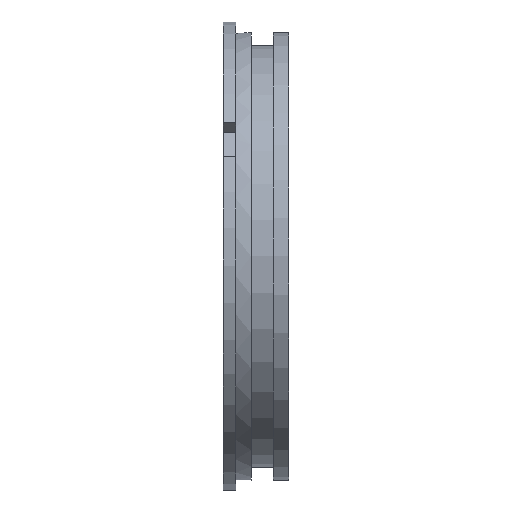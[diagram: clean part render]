
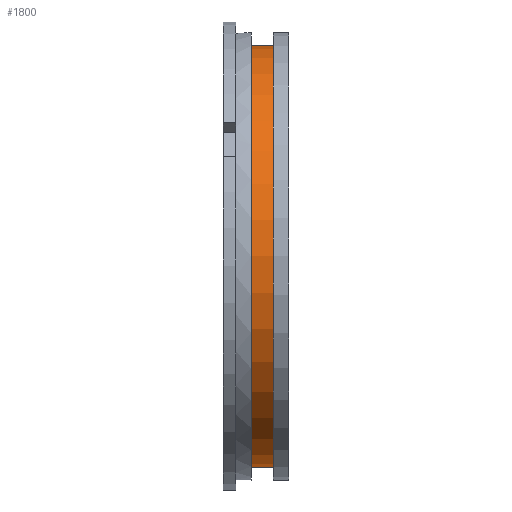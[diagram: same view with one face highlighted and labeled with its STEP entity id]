
A CAD part, front view. The second image highlights one B-rep face of the part: STEP entity #1800.
In plain terms, the highlighted cylindrical face has radius 34.295 mm (diameter 68.59 mm), a full revolution.
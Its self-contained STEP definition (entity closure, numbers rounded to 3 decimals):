
#1710 = PLANE('',#1711);
#1711 = AXIS2_PLACEMENT_3D('',#1712,#1713,#1714);
#1712 = CARTESIAN_POINT('',(-18.,0.,0.)
  );
#1713 = DIRECTION('',(1.,0.,0.));
#1714 = DIRECTION('',(-0.,0.,1.));
#1772 = EDGE_CURVE('',#1773,#1773,#1775,.T.);
#1773 = VERTEX_POINT('',#1774);
#1774 = CARTESIAN_POINT('',(-18.,34.295,0.));
#1775 = SURFACE_CURVE('',#1776,(#1781,#1788),.PCURVE_S1.);
#1776 = CIRCLE('',#1777,34.295);
#1777 = AXIS2_PLACEMENT_3D('',#1778,#1779,#1780);
#1778 = CARTESIAN_POINT('',(-18.,0.,0.)
  );
#1779 = DIRECTION('',(1.,0.,0.));
#1780 = DIRECTION('',(0.,1.,0.));
#1781 = PCURVE('',#1710,#1782);
#1782 = DEFINITIONAL_REPRESENTATION('',(#1783),#1787);
#1783 = CIRCLE('',#1784,34.295);
#1784 = AXIS2_PLACEMENT_2D('',#1785,#1786);
#1785 = CARTESIAN_POINT('',(0.,0.));
#1786 = DIRECTION('',(0.,-1.));
#1787 = ( GEOMETRIC_REPRESENTATION_CONTEXT(2) 
PARAMETRIC_REPRESENTATION_CONTEXT() REPRESENTATION_CONTEXT('2D SPACE',''
  ) );
#1788 = PCURVE('',#1789,#1794);
#1789 = CYLINDRICAL_SURFACE('',#1790,34.295);
#1790 = AXIS2_PLACEMENT_3D('',#1791,#1792,#1793);
#1791 = CARTESIAN_POINT('',(-18.,0.,0.)
  );
#1792 = DIRECTION('',(-1.,-0.,-0.));
#1793 = DIRECTION('',(0.,1.,0.));
#1794 = DEFINITIONAL_REPRESENTATION('',(#1795),#1799);
#1795 = LINE('',#1796,#1797);
#1796 = CARTESIAN_POINT('',(-0.,0.));
#1797 = VECTOR('',#1798,1.);
#1798 = DIRECTION('',(-1.,0.));
#1799 = ( GEOMETRIC_REPRESENTATION_CONTEXT(2) 
PARAMETRIC_REPRESENTATION_CONTEXT() REPRESENTATION_CONTEXT('2D SPACE',''
  ) );
#1800 = ADVANCED_FACE('',(#1801),#1789,.T.);
#1801 = FACE_BOUND('',#1802,.F.);
#1802 = EDGE_LOOP('',(#1803,#1826,#1853,#1854));
#1803 = ORIENTED_EDGE('',*,*,#1804,.T.);
#1804 = EDGE_CURVE('',#1773,#1805,#1807,.T.);
#1805 = VERTEX_POINT('',#1806);
#1806 = CARTESIAN_POINT('',(-14.4,34.295,0.));
#1807 = SEAM_CURVE('',#1808,(#1812,#1819),.PCURVE_S1.);
#1808 = LINE('',#1809,#1810);
#1809 = CARTESIAN_POINT('',(-18.,34.295,0.));
#1810 = VECTOR('',#1811,1.);
#1811 = DIRECTION('',(1.,0.,0.));
#1812 = PCURVE('',#1789,#1813);
#1813 = DEFINITIONAL_REPRESENTATION('',(#1814),#1818);
#1814 = LINE('',#1815,#1816);
#1815 = CARTESIAN_POINT('',(-0.,0.));
#1816 = VECTOR('',#1817,1.);
#1817 = DIRECTION('',(-0.,-1.));
#1818 = ( GEOMETRIC_REPRESENTATION_CONTEXT(2) 
PARAMETRIC_REPRESENTATION_CONTEXT() REPRESENTATION_CONTEXT('2D SPACE',''
  ) );
#1819 = PCURVE('',#1789,#1820);
#1820 = DEFINITIONAL_REPRESENTATION('',(#1821),#1825);
#1821 = LINE('',#1822,#1823);
#1822 = CARTESIAN_POINT('',(-6.283,0.));
#1823 = VECTOR('',#1824,1.);
#1824 = DIRECTION('',(-0.,-1.));
#1825 = ( GEOMETRIC_REPRESENTATION_CONTEXT(2) 
PARAMETRIC_REPRESENTATION_CONTEXT() REPRESENTATION_CONTEXT('2D SPACE',''
  ) );
#1826 = ORIENTED_EDGE('',*,*,#1827,.T.);
#1827 = EDGE_CURVE('',#1805,#1805,#1828,.T.);
#1828 = SURFACE_CURVE('',#1829,(#1834,#1841),.PCURVE_S1.);
#1829 = CIRCLE('',#1830,34.295);
#1830 = AXIS2_PLACEMENT_3D('',#1831,#1832,#1833);
#1831 = CARTESIAN_POINT('',(-14.4,0.,0.)
  );
#1832 = DIRECTION('',(1.,0.,0.));
#1833 = DIRECTION('',(0.,1.,0.));
#1834 = PCURVE('',#1789,#1835);
#1835 = DEFINITIONAL_REPRESENTATION('',(#1836),#1840);
#1836 = LINE('',#1837,#1838);
#1837 = CARTESIAN_POINT('',(-0.,-3.6));
#1838 = VECTOR('',#1839,1.);
#1839 = DIRECTION('',(-1.,0.));
#1840 = ( GEOMETRIC_REPRESENTATION_CONTEXT(2) 
PARAMETRIC_REPRESENTATION_CONTEXT() REPRESENTATION_CONTEXT('2D SPACE',''
  ) );
#1841 = PCURVE('',#1842,#1847);
#1842 = PLANE('',#1843);
#1843 = AXIS2_PLACEMENT_3D('',#1844,#1845,#1846);
#1844 = CARTESIAN_POINT('',(-14.4,0.,0.)
  );
#1845 = DIRECTION('',(1.,0.,0.));
#1846 = DIRECTION('',(-0.,0.,1.));
#1847 = DEFINITIONAL_REPRESENTATION('',(#1848),#1852);
#1848 = CIRCLE('',#1849,34.295);
#1849 = AXIS2_PLACEMENT_2D('',#1850,#1851);
#1850 = CARTESIAN_POINT('',(0.,0.));
#1851 = DIRECTION('',(0.,-1.));
#1852 = ( GEOMETRIC_REPRESENTATION_CONTEXT(2) 
PARAMETRIC_REPRESENTATION_CONTEXT() REPRESENTATION_CONTEXT('2D SPACE',''
  ) );
#1853 = ORIENTED_EDGE('',*,*,#1804,.F.);
#1854 = ORIENTED_EDGE('',*,*,#1772,.F.);
